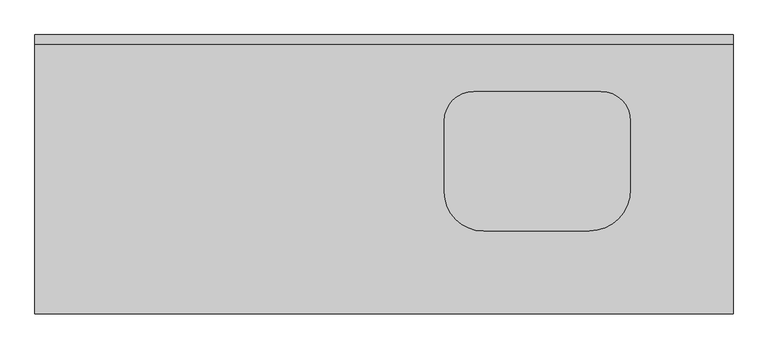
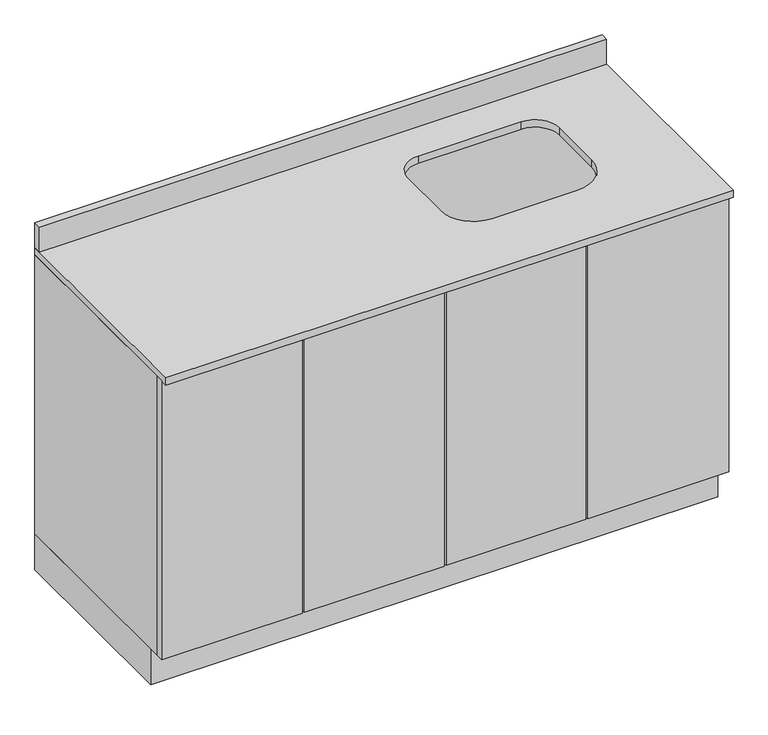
"""IFC4 building model written with IfcOpenShell, lengths in millimetres: furniture geometry, ARQ_MOB_BAÑO-04 : MUEBLE_BAÑO-04."""

from ifc_helpers import new_model, si_unit, point, frame, frame_2d, origin, origin_with_axes, place, context, project, spatial, polyline, circle_curve, trimmed, segment, composite_curve, outline, extrude, source, transform, mapped, element, save


def furniture_eb19d553(model_context):
    return source(origin(), model_context, "Body", "SweptSolid", [
        extrude(outline(polyline([(-705.2996736, -20.0), (-705.2996736, 0.0), (794.7003264, 0.0), (794.7003264, -20.0), (-705.2996736, -20.0)])), frame((0.0, 0.0, 900.0), z_axis=(0.0, 0.0, 1.0), x_axis=(1.0, 0.0, 0.0)), (0.0, 0.0, 1.0), 70.0),
        extrude(outline(polyline([(-332.7996736, -560.0), (-332.7996736, -580.0), (-705.2996736, -580.0), (-705.2996736, -560.0), (-332.7996736, -560.0)])), frame((0.0, 0.0, 100.0), z_axis=(0.0, 0.0, 1.0), x_axis=(1.0, 0.0, 0.0)), (0.0, 0.0, 1.0), 780.0),
        extrude(outline(polyline([(-327.7996736, -580.0), (-327.7996736, -560.0), (42.2003264, -560.0), (42.2003264, -580.0), (-327.7996736, -580.0)])), frame((0.0, 0.0, 100.0), z_axis=(0.0, 0.0, 1.0), x_axis=(1.0, 0.0, 0.0)), (0.0, 0.0, 1.0), 780.0),
        extrude(outline(polyline([(417.2003264, -560.0), (417.2003264, -580.0), (47.2003264, -580.0), (47.2003264, -560.0), (417.2003264, -560.0)])), frame((0.0, 0.0, 100.0), z_axis=(0.0, 0.0, 1.0), x_axis=(1.0, 0.0, 0.0)), (0.0, 0.0, 1.0), 780.0),
        extrude(outline(polyline([(422.2003264, -580.0), (422.2003264, -560.0), (794.7003264, -560.0), (794.7003264, -580.0), (422.2003264, -580.0)])), frame((0.0, 0.0, 100.0), z_axis=(0.0, 0.0, 1.0), x_axis=(1.0, 0.0, 0.0)), (0.0, 0.0, 1.0), 780.0),
        extrude(outline(polyline([(-685.2996736, -20.0), (774.7003264, -20.0), (774.7003264, -560.0), (-685.2996736, -560.0), (-685.2996736, -20.0)])), frame((0.0, 0.0, 100.0), z_axis=(0.0, 0.0, 1.0), x_axis=(1.0, 0.0, 0.0)), (0.0, 0.0, 1.0), 20.0),
        extrude(outline(polyline([(794.7003264, 0.0), (794.7003264, -560.0), (774.7003264, -560.0), (774.7003264, -20.0), (-685.2996736, -20.0), (-685.2996736, -560.0), (-705.2996736, -560.0), (-705.2996736, 0.0), (794.7003264, 0.0)])), frame((0.0, 0.0, 100.0), z_axis=(0.0, 0.0, 1.0), x_axis=(1.0, 0.0, 0.0)), (0.0, 0.0, 1.0), 780.0),
        extrude(outline(polyline([(794.7003264, 0.0), (794.7003264, -530.0), (-705.2996736, -530.0), (-705.2996736, 0.0), (794.7003264, 0.0)])), origin_with_axes(), (0.0, 0.0, 1.0), 100.0),
        extrude(outline(polyline([(794.7003264, 0.0), (794.7003264, -600.0), (-705.2996736, -600.0), (-705.2996736, 0.0), (794.7003264, 0.0)]), holes=[composite_curve([segment(polyline([(510.7752928, -121.9), (237.7752929, -121.9)]), True, "CONTINUOUS"), segment(trimmed(circle_curve(frame_2d((237.7752929, -185.4)), 63.5), [point((237.7752929, -121.9))], [point((174.2752929, -185.4))], True, "CARTESIAN"), True, "CONTINUOUS"), segment(polyline([(174.2752929, -185.4), (174.2752929, -337.5499329)]), True, "CONTINUOUS"), segment(trimmed(circle_curve(frame_2d((258.62536, -337.5499329)), 84.3500671), [point((174.2752929, -337.5499329))], [point((258.62536, -421.9))], True, "CARTESIAN"), True, "CONTINUOUS"), segment(polyline([(258.62536, -421.9), (485.3752929, -421.9)]), True, "CONTINUOUS"), segment(trimmed(circle_curve(frame_2d((485.3752929, -333.0000001)), 88.8999999), [point((485.3752929, -421.9))], [point((574.2752928, -333.0000001))], True, "CARTESIAN"), True, "CONTINUOUS"), segment(polyline([(574.2752928, -333.0000001), (574.2752928, -185.4)]), True, "CONTINUOUS"), segment(trimmed(circle_curve(frame_2d((510.7752928, -185.4)), 63.5), [point((574.2752928, -185.4))], [point((510.7752928, -121.9))], True, "CARTESIAN"), True, "CONTINUOUS")], self_intersect=False)]), frame((0.0, 0.0, 880.0), z_axis=(0.0, 0.0, 1.0), x_axis=(1.0, 0.0, 0.0)), (0.0, 0.0, 1.0), 20.0),
    ])


if __name__ == "__main__":
    model = new_model("IFC4")
    model_context = context("Model", 3, world=origin())
    ifc_project = project(units=[si_unit("LENGTHUNIT", "METRE", prefix="MILLI")], contexts=[model_context])
    site = spatial("IfcSite", under=ifc_project)
    building = spatial("IfcBuilding", under=site)
    placement = place(None, origin())
    furniture_shape = furniture_eb19d553(model_context)
    element("IfcFurniture", 1, ObjectType="ARQ_MOB_BAÑO-04 : MUEBLE_BAÑO-04", at=placement, inside=building, context=model_context, shape_type="MappedRepresentation", body=[
        mapped(furniture_shape, transform((0.0, 0.0, 0.0), x_axis=(1.0, 0.0, 0.0), y_axis=(0.0, 1.0, 0.0), z_axis=(0.0, 0.0, 1.0))),
    ])
    save(model, "model.ifc")
